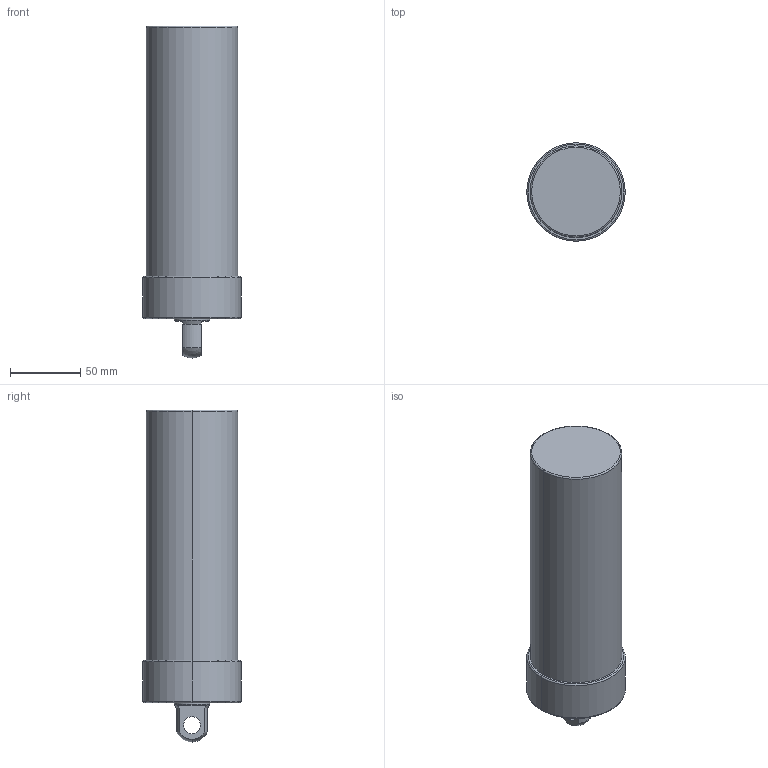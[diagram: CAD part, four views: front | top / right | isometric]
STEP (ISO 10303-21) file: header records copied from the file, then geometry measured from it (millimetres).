
FILE_DESCRIPTION (( 'STEP AP203' ), '1' );
FILE_NAME ('CLLU-065GP-145.STEP', '2020-01-08T00:38:50', ( '' ), ( '' ), 'SwSTEP 2.0', 'SolidWorks 2015', '' );
FILE_SCHEMA (( 'CONFIG_CONTROL_DESIGN' ));
Length unit declared in the file: millimetre
Products named in the file (1): CLLU-065GP-145
Bounding box: 70 x 70 x 236 mm (x, y, z)
Volume: 710197.5 mm3; surface area: 53304.2 mm2
Topology: 1 solids, 1 shells, 57 faces, 130 edges, 75 vertices
Faces by surface type: cylinder 22, cone 18, plane 9, torus 6, sphere 2
Entity records: 1643 total; most frequent: DIRECTION 308, CARTESIAN_POINT 267, ORIENTED_EDGE 244, AXIS2_PLACEMENT_3D 132, EDGE_CURVE 122, VERTEX_POINT 75, CIRCLE 74, EDGE_LOOP 67
